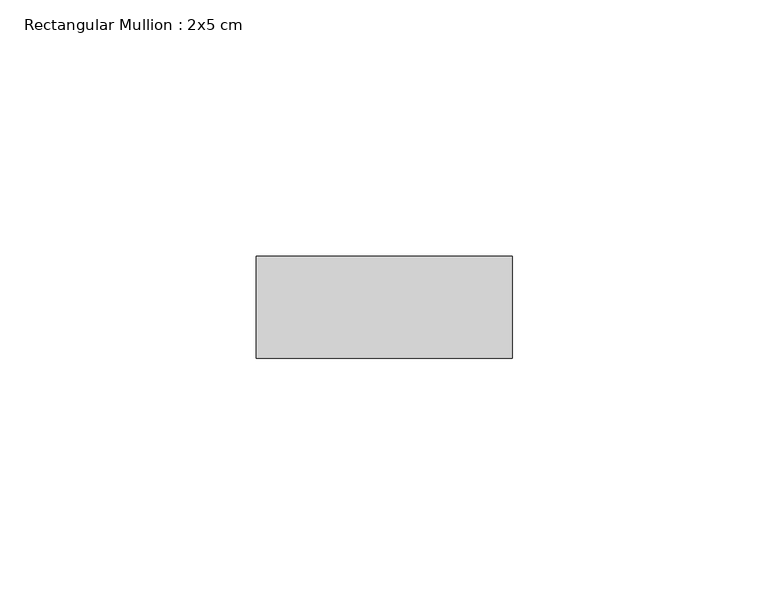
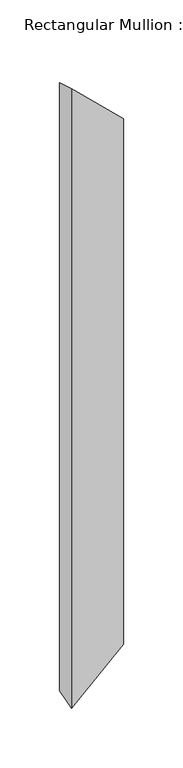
"""IFC4 building model written with IfcOpenShell, lengths in millimetres: member geometry, Rectangular Mullion : 2x5 cm."""

from ifc_helpers import new_model, si_unit, origin, place, context, project, spatial, faceted_brep, source, transform, mapped, element, save


def rectangular_mullion_2x5_cm_8f59c52d(model_context):
    return source(origin(), model_context, "Body", "Brep", [
        faceted_brep([(0.0, 20.0, -5.7469577), (50.0, 20.0, -53.638272), (50.0, 20.0, -578.6738674), (0.0, 20.0, -626.5651817), (0.0, 0.0, 0.0), (0.0, 0.0, -632.3121394), (50.0, 0.0, -47.8913143), (50.0, 0.0, -584.4208251)], [[[0, 1, 2, 3]], [[4, 0, 3, 5]], [[6, 4, 5, 7]], [[1, 6, 7, 2]], [[1, 0, 4, 6]], [[2, 7, 5, 3]]]),
    ])


if __name__ == "__main__":
    model = new_model("IFC4")
    model_context = context("Model", 3, world=origin())
    ifc_project = project(units=[si_unit("LENGTHUNIT", "METRE", prefix="MILLI")], contexts=[model_context])
    site = spatial("IfcSite", under=ifc_project)
    building = spatial("IfcBuilding", under=site)
    placement = place(None, origin())
    rectangular_mullion_2x5_cm_shape = rectangular_mullion_2x5_cm_8f59c52d(model_context)
    element("IfcMember", 1, ObjectType="Rectangular Mullion : 2x5 cm", at=placement, inside=building, context=model_context, shape_type="MappedRepresentation", body=[
        mapped(rectangular_mullion_2x5_cm_shape, transform((0.0, 0.0, 0.0), x_axis=(1.0, 0.0, 0.0), y_axis=(0.0, 1.0, 0.0), z_axis=(0.0, 0.0, 1.0))),
    ])
    save(model, "model.ifc")
